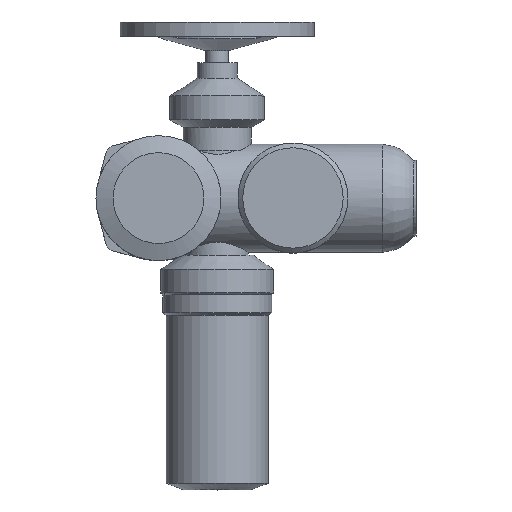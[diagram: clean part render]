
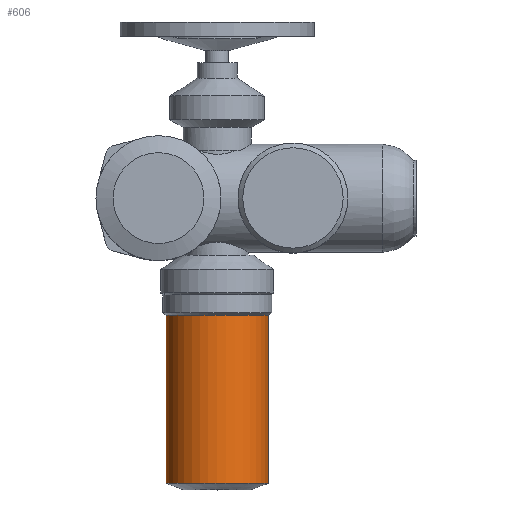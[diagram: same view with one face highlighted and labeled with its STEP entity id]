
A CAD part, top view. The second image highlights one B-rep face of the part: STEP entity #606.
In plain terms, the highlighted cylindrical face has radius 54 mm (diameter 108 mm), a full revolution.
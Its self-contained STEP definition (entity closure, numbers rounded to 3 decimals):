
#606=ADVANCED_FACE('',(#1295,#1297),#1299,.T.);
#1295=FACE_OUTER_BOUND('',#1296,.T.);
#1296=EDGE_LOOP('',(#1714));
#1297=FACE_OUTER_BOUND('',#1298,.T.);
#1298=EDGE_LOOP('',(#1715));
#1299=CYLINDRICAL_SURFACE('',#1300,54.);
#1300=AXIS2_PLACEMENT_3D('',#1301,#1302,#1303);
#1301=CARTESIAN_POINT('',(0.,-301.085,0.));
#1302=DIRECTION('',(0.,1.,0.));
#1303=DIRECTION('',(0.,0.,1.));
#1714=ORIENTED_EDGE('',*,*,#1953,.F.);
#1715=ORIENTED_EDGE('',*,*,#1955,.T.);
#1953=EDGE_CURVE('',#2233,#2233,#2234,.T.);
#1955=EDGE_CURVE('',#2237,#2237,#2238,.T.);
#2233=VERTEX_POINT('',#3966);
#2234=CIRCLE('',#3967,54.);
#2237=VERTEX_POINT('',#3976);
#2238=CIRCLE('',#3977,54.);
#3966=CARTESIAN_POINT('',(0.,-123.505,54.));
#3967=AXIS2_PLACEMENT_3D('',#3968,#3969,#3970);
#3968=CARTESIAN_POINT('',(0.,-123.505,0.));
#3969=DIRECTION('',(0.,1.,0.));
#3970=DIRECTION('',(0.,0.,1.));
#3976=CARTESIAN_POINT('',(0.,-301.085,54.));
#3977=AXIS2_PLACEMENT_3D('',#3978,#3979,#3980);
#3978=CARTESIAN_POINT('',(0.,-301.085,0.));
#3979=DIRECTION('',(0.,1.,0.));
#3980=DIRECTION('',(0.,0.,1.));
